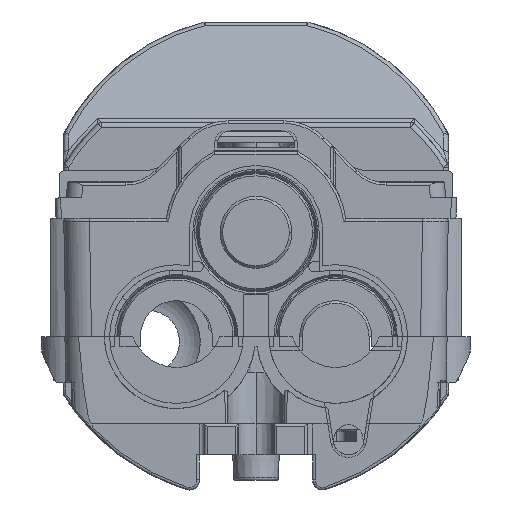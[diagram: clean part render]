
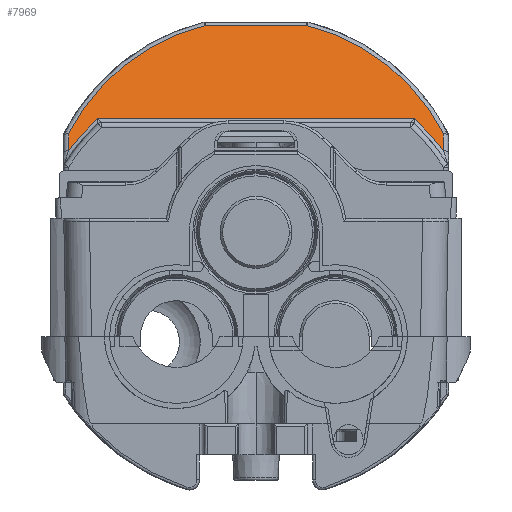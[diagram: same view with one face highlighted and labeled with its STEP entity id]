
A CAD part, left-side view. The second image highlights one B-rep face of the part: STEP entity #7969.
In plain terms, the highlighted planar face has unit normal (-0.94, 0, 0.342).
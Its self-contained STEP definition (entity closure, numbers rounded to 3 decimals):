
#779 = VERTEX_POINT ( 'NONE', #28406 ) ;
#1793 = DIRECTION ( 'NONE',  ( -0.342, 0., -0.94 ) ) ;
#2120 = CARTESIAN_POINT ( 'NONE',  ( -162.942, -9.878, 94.592 ) ) ;
#2156 = EDGE_CURVE ( 'NONE', #36854, #779, #8315, .T. ) ;
#2437 = AXIS2_PLACEMENT_3D ( 'NONE', #49883, #37006, #9489 ) ;
#2999 = ORIENTED_EDGE ( 'NONE', *, *, #54510, .T. ) ;
#3660 = VECTOR ( 'NONE', #45495, 1000. ) ;
#3734 = CARTESIAN_POINT ( 'NONE',  ( -170.253, 32.955, 74.505 ) ) ;
#4283 = VECTOR ( 'NONE', #40178, 1000. ) ;
#5238 = EDGE_CURVE ( 'NONE', #22548, #29559, #25828, .T. ) ;
#5787 = CARTESIAN_POINT ( 'NONE',  ( -170.253, -32.955, 74.505 ) ) ;
#6065 = CARTESIAN_POINT ( 'NONE',  ( -171.011, -34.827, 72.422 ) ) ;
#6504 = LINE ( 'NONE', #18066, #3660 ) ;
#7195 = EDGE_CURVE ( 'NONE', #779, #22548, #6504, .T. ) ;
#7969 = ADVANCED_FACE ( 'NONE', ( #50408 ), #50079, .T. ) ;
#8144 = CARTESIAN_POINT ( 'NONE',  ( -169.561, 38.25, 76.408 ) ) ;
#8315 =( BOUNDED_CURVE ( )  B_SPLINE_CURVE ( 3, ( #9023, #5787, #6065, #9996 ),
 .UNSPECIFIED., .F., .F. ) 
 B_SPLINE_CURVE_WITH_KNOTS ( ( 4, 4 ),
 ( 3.888, 4.073 ),
 .UNSPECIFIED. ) 
 CURVE ( )  GEOMETRIC_REPRESENTATION_ITEM ( )  RATIONAL_B_SPLINE_CURVE ( ( 1., 0.997, 0.997, 1. ) ) 
 REPRESENTATION_ITEM ( '' )  );
#8671 =( BOUNDED_CURVE ( )  B_SPLINE_CURVE ( 3, ( #44072, #12242, #21306, #52860 ),
 .UNSPECIFIED., .F., .T. ) 
 B_SPLINE_CURVE_WITH_KNOTS ( ( 4, 4 ),
 ( 0.243, 1.098 ),
 .UNSPECIFIED. ) 
 CURVE ( )  GEOMETRIC_REPRESENTATION_ITEM ( )  RATIONAL_B_SPLINE_CURVE ( ( 1., 0.94, 0.94, 1. ) ) 
 REPRESENTATION_ITEM ( '' )  );
#9023 = CARTESIAN_POINT ( 'NONE',  ( -169.561, -30.898, 76.408 ) ) ;
#9489 = DIRECTION ( 'NONE',  ( 0.342, 0., 0.94 ) ) ;
#9996 = CARTESIAN_POINT ( 'NONE',  ( -171.829, -36.5, 70.174 ) ) ;
#10666 = LINE ( 'NONE', #25385, #33652 ) ;
#10998 = CARTESIAN_POINT ( 'NONE',  ( -169.8, 36.5, 75.75 ) ) ;
#12242 = CARTESIAN_POINT ( 'NONE',  ( -163.999, 21.572, 91.689 ) ) ;
#13254 = CARTESIAN_POINT ( 'NONE',  ( -162.942, -9.878, 94.592 ) ) ;
#15808 = CARTESIAN_POINT ( 'NONE',  ( -166.724, -31.012, 84.201 ) ) ;
#16001 = CARTESIAN_POINT ( 'NONE',  ( -170.628, -36.5, 73.475 ) ) ;
#16372 = VECTOR ( 'NONE', #1793, 1000. ) ;
#16461 = ORIENTED_EDGE ( 'NONE', *, *, #7195, .T. ) ;
#16802 = CARTESIAN_POINT ( 'NONE',  ( -163.999, -21.572, 91.689 ) ) ;
#17426 = CARTESIAN_POINT ( 'NONE',  ( -171.829, 36.5, 70.174 ) ) ;
#18066 = CARTESIAN_POINT ( 'NONE',  ( -169.8, -36.5, 75.75 ) ) ;
#18936 = VERTEX_POINT ( 'NONE', #28282 ) ;
#21306 = CARTESIAN_POINT ( 'NONE',  ( -166.724, 31.012, 84.201 ) ) ;
#21815 = CARTESIAN_POINT ( 'NONE',  ( -171.829, 36.5, 70.174 ) ) ;
#22548 = VERTEX_POINT ( 'NONE', #30540 ) ;
#22845 = VERTEX_POINT ( 'NONE', #47686 ) ;
#22952 = ORIENTED_EDGE ( 'NONE', *, *, #54847, .T. ) ;
#24263 = EDGE_LOOP ( 'NONE', ( #27288, #2999, #22952, #54566, #50493, #46322, #16461, #36678 ) ) ;
#25385 = CARTESIAN_POINT ( 'NONE',  ( -162.942, 10., 94.592 ) ) ;
#25828 =( BOUNDED_CURVE ( )  B_SPLINE_CURVE ( 3, ( #16001, #15808, #16802, #2120 ),
 .UNSPECIFIED., .F., .F. ) 
 B_SPLINE_CURVE_WITH_KNOTS ( ( 4, 4 ),
 ( 5.185, 6.04 ),
 .UNSPECIFIED. ) 
 CURVE ( )  GEOMETRIC_REPRESENTATION_ITEM ( )  RATIONAL_B_SPLINE_CURVE ( ( 1., 0.94, 0.94, 1. ) ) 
 REPRESENTATION_ITEM ( '' )  );
#25876 =( BOUNDED_CURVE ( )  B_SPLINE_CURVE ( 3, ( #21815, #40153, #3734, #35815 ),
 .UNSPECIFIED., .F., .F. ) 
 B_SPLINE_CURVE_WITH_KNOTS ( ( 4, 4 ),
 ( 2.211, 2.395 ),
 .UNSPECIFIED. ) 
 CURVE ( )  GEOMETRIC_REPRESENTATION_ITEM ( )  RATIONAL_B_SPLINE_CURVE ( ( 1., 0.997, 0.997, 1. ) ) 
 REPRESENTATION_ITEM ( '' )  );
#27288 = ORIENTED_EDGE ( 'NONE', *, *, #55759, .T. ) ;
#28282 = CARTESIAN_POINT ( 'NONE',  ( -162.942, 9.878, 94.592 ) ) ;
#28406 = CARTESIAN_POINT ( 'NONE',  ( -171.829, -36.5, 70.174 ) ) ;
#29559 = VERTEX_POINT ( 'NONE', #13254 ) ;
#30055 = DIRECTION ( 'NONE',  ( 0., 1., 0. ) ) ;
#30540 = CARTESIAN_POINT ( 'NONE',  ( -170.628, -36.5, 73.475 ) ) ;
#33652 = VECTOR ( 'NONE', #30055, 1000. ) ;
#35815 = CARTESIAN_POINT ( 'NONE',  ( -169.561, 30.898, 76.408 ) ) ;
#36678 = ORIENTED_EDGE ( 'NONE', *, *, #5238, .T. ) ;
#36854 = VERTEX_POINT ( 'NONE', #41120 ) ;
#37006 = DIRECTION ( 'NONE',  ( -0.94, 0., 0.342 ) ) ;
#37230 = CARTESIAN_POINT ( 'NONE',  ( -170.628, 36.5, 73.475 ) ) ;
#40153 = CARTESIAN_POINT ( 'NONE',  ( -171.011, 34.827, 72.422 ) ) ;
#40178 = DIRECTION ( 'NONE',  ( 0., -1., 0. ) ) ;
#41120 = CARTESIAN_POINT ( 'NONE',  ( -169.561, -30.898, 76.408 ) ) ;
#42130 = LINE ( 'NONE', #10998, #16372 ) ;
#44072 = CARTESIAN_POINT ( 'NONE',  ( -162.942, 9.878, 94.592 ) ) ;
#45495 = DIRECTION ( 'NONE',  ( 0.342, 0., 0.94 ) ) ;
#46322 = ORIENTED_EDGE ( 'NONE', *, *, #2156, .T. ) ;
#47686 = CARTESIAN_POINT ( 'NONE',  ( -169.561, 30.898, 76.408 ) ) ;
#49676 = LINE ( 'NONE', #8144, #4283 ) ;
#49883 = CARTESIAN_POINT ( 'NONE',  ( -169.8, 38.25, 75.75 ) ) ;
#50079 = PLANE ( 'NONE',  #2437 ) ;
#50408 = FACE_OUTER_BOUND ( 'NONE', #24263, .T. ) ;
#50493 = ORIENTED_EDGE ( 'NONE', *, *, #54996, .T. ) ;
#52774 = VERTEX_POINT ( 'NONE', #37230 ) ;
#52860 = CARTESIAN_POINT ( 'NONE',  ( -170.628, 36.5, 73.475 ) ) ;
#54069 = VERTEX_POINT ( 'NONE', #17426 ) ;
#54510 = EDGE_CURVE ( 'NONE', #18936, #52774, #8671, .T. ) ;
#54566 = ORIENTED_EDGE ( 'NONE', *, *, #57209, .T. ) ;
#54847 = EDGE_CURVE ( 'NONE', #52774, #54069, #42130, .T. ) ;
#54996 = EDGE_CURVE ( 'NONE', #22845, #36854, #49676, .T. ) ;
#55759 = EDGE_CURVE ( 'NONE', #29559, #18936, #10666, .T. ) ;
#57209 = EDGE_CURVE ( 'NONE', #54069, #22845, #25876, .T. ) ;
